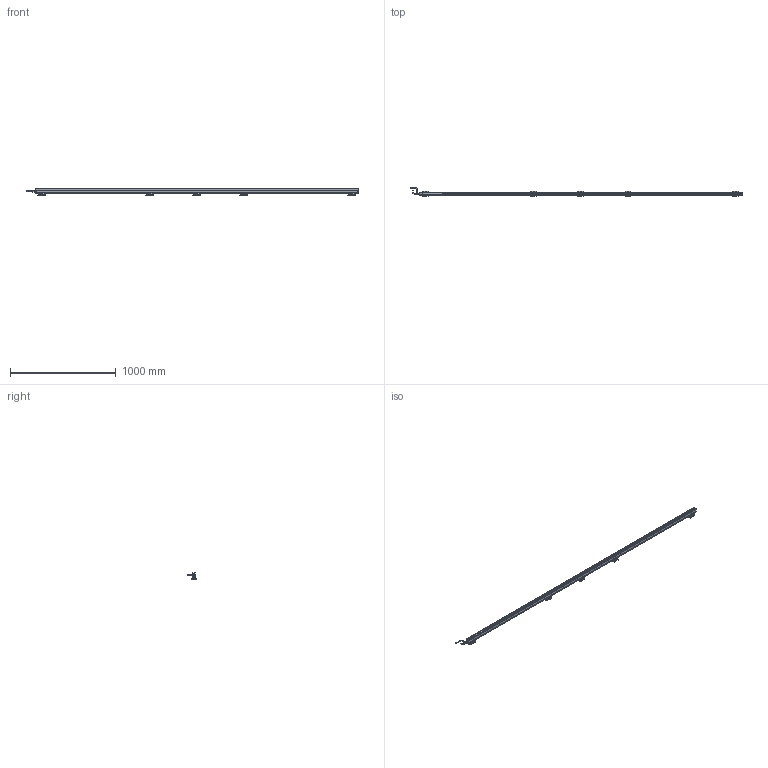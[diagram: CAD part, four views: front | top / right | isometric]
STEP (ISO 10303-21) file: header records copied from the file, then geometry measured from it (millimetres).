
FILE_DESCRIPTION(('Bauteilbeschreibung','HiCAD-Model','HiCAD-STEP-TRANSLATION','Bauteilbeschreibung'),'2;1');
FILE_NAME('PERFORMAXIQEASY_2970-3060_3D.STP','2014-03-05T13:12:12+00:00',('Konstrukteur'),('Konstrukteur Firma GmbH'),' HiCAD 2011, Step 1600.0 ','HiCAD 2011','confidential');
FILE_SCHEMA(('AUTOMOTIVE_DESIGN { 1 2 10303 214 0 1 1 1 }'));
Products named in the file (51): PERFORMAXIQEASY_2970_3060_3D; A_PERFORMAX IQ EASY 2970_3060; A_PERFORMAX IQ EASY SPEED; A_CAP DE; A_CAP CE_5; LED_2C_3MM; LED02C03MM; A519020315_CONNECTOR APPLIANCE; A_INSERT; A_CONTACTS; A_HOUSING; A_PROFILE; A_POTTING; PIN; PIN0; A532000100_BRACKET BARS_ MOUNT; A_SIDE PIECE; A0SIDE0PIECE; A_BRACKET SMALL; A_SLIDE PIECE; A5320001000BRACKET0BARS00MOUNT; A0SIDE0PIECE0; A0SIDE0PIECE1; A0BRACKET0SMALL; A0SLIDE0PIECE; A5320001000BRACKET0BARS00MOUNT0; A0SIDE0PIECE2; A0SIDE0PIECE3; A0BRACKET0SMALL0; A0SLIDE0PIECE0; A0SIDE0PIECE4; A0SIDE0PIECE5; A0BRACKET0SMALL1; A0SLIDE0PIECE1; A0SIDE0PIECE6; A0SIDE0PIECE7; A0BRACKET0SMALL2; A0SLIDE0PIECE2; A_CONNECTOR STRAIGHT; EXTRUDED SOLID_0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
Assembly tree (50 placements, depth 5):
  PERFORMAXIQEASY_2970_3060_3D
    A_PERFORMAX IQ EASY 2970_3060
      A_PERFORMAX IQ EASY SPEED
        A_CAP DE
        A_CAP CE_5
        LED_2C_3MM
        LED02C03MM
        A519020315_CONNECTOR APPLIANCE
          A_INSERT
          A_CONTACTS
          A_HOUSING
        A_PROFILE
        A_POTTING
        PIN
        PIN0
      A532000100_BRACKET BARS_ MOUNT
        A_SIDE PIECE
        A0SIDE0PIECE
        A_BRACKET SMALL
        A_SLIDE PIECE
      A5320001000BRACKET0BARS00MOUNT
        A0SIDE0PIECE0
        A0SIDE0PIECE1
        A0BRACKET0SMALL
        A0SLIDE0PIECE
      A5320001000BRACKET0BARS00MOUNT0
        A0SIDE0PIECE2
        A0SIDE0PIECE3
        A0BRACKET0SMALL0
        A0SLIDE0PIECE0
      A5320001000BRACKET0BARS00MOUNT0
        A0SIDE0PIECE4
        A0SIDE0PIECE5
        A0BRACKET0SMALL1
        A0SLIDE0PIECE1
      A5320001000BRACKET0BARS00MOUNT0
        A0SIDE0PIECE6
        A0SIDE0PIECE7
        A0BRACKET0SMALL2
        A0SLIDE0PIECE2
      A_CONNECTOR STRAIGHT
        EXTRUDED SOLID_0
        DRAAD GEBOGEN
        REVOLVED SOLID_1
        REVOLVED SOLID_3
      A_CONNECTOR ANGLED
        REVOLVED0SOLID01
        EXTRUDED0SOLID00
        C_EDGE SWEEP_0
        REVOLVED SOLID_2
        REVOLVED0SOLID03
Bounding box: 3137.89 x 84.26 x 63.13 mm (x, y, z)
Volume: 3162835.1 mm3; surface area: 774888.6 mm2
Topology: 45 solids, 45 shells, 4215 faces, 10819 edges, 6421 vertices
Faces by surface type: cylinder 1797, plane 1597, sphere 277, torus 252, bspline 208, cone 84
Full cylindrical faces by diameter (mm): 0.8 x10, 1 x5, 2.387 x10, 3 x23, 3.1 x1, 4.2 x2, 5 x4, 5.5 x25, 8 x2, 8.2 x1, 8.4 x2, 8.945 x1, 9 x2, 10.2 x1, 10.5 x3, 11 x1, 12 x3, 12.8 x1, 13.8 x4, 14.5 x3
Entity records: 195163 total; most frequent: CARTESIAN_POINT 45850, DIRECTION 20961, ORIENTED_EDGE 20534, EDGE_CURVE 10267, COLOUR_RGB 9750, PRESENTATION_STYLE_ASSIGNMENT 9750, OVER_RIDING_STYLED_ITEM 9710, CURVE_STYLE 9705
